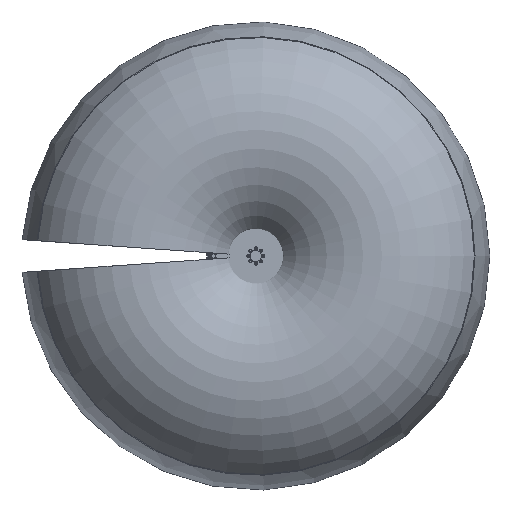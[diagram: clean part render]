
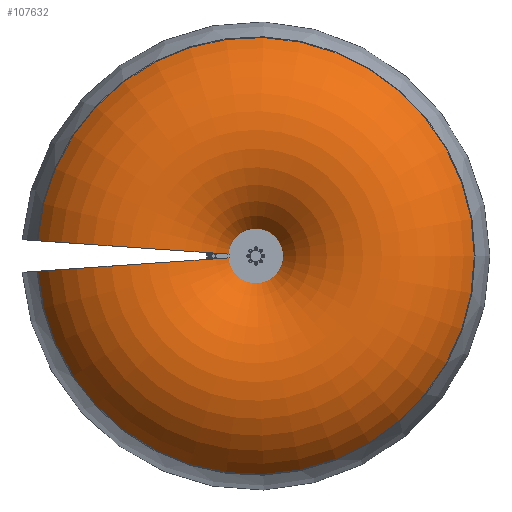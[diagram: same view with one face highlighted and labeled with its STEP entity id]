
A CAD part, front view. The second image highlights one B-rep face of the part: STEP entity #107632.
In plain terms, the highlighted toroidal (fillet/blend) face has major radius 519.892 mm and minor radius 493.438 mm.
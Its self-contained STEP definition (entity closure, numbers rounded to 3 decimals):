
#4963 = CARTESIAN_POINT ( 'NONE',  ( -78.124, 66.35, -5.463 ) ) ;
#13414 = VERTEX_POINT ( 'NONE', #46708 ) ;
#20963 = CARTESIAN_POINT ( 'NONE',  ( -947.065, 43.607, -66.225 ) ) ;
#22651 = CARTESIAN_POINT ( 'NONE',  ( 0., 66.35, 0. ) ) ;
#26106 = DIRECTION ( 'NONE',  ( 0.07, 0., -0.998 ) ) ;
#46708 = CARTESIAN_POINT ( 'NONE',  ( -78.124, 66.35, 5.463 ) ) ;
#62185 = EDGE_CURVE ( 'NONE', #157649, #158836, #127745, .T. ) ;
#64010 = EDGE_CURVE ( 'NONE', #161813, #157649, #201263, .T. ) ;
#66969 = CARTESIAN_POINT ( 'NONE',  ( -518.626, 286.555, 36.266 ) ) ;
#69250 = DIRECTION ( 'NONE',  ( 0., -1., 0. ) ) ;
#93327 = CARTESIAN_POINT ( 'NONE',  ( -947.065, 43.607, 66.225 ) ) ;
#95449 = ORIENTED_EDGE ( 'NONE', *, *, #223878, .F. ) ;
#100693 = ORIENTED_EDGE ( 'NONE', *, *, #64010, .T. ) ;
#107632 = ADVANCED_FACE ( 'NONE', ( #182950 ), #171156, .T. ) ;
#109438 = ORIENTED_EDGE ( 'NONE', *, *, #62185, .T. ) ;
#123861 = CIRCLE ( 'NONE', #140922, 78.314 ) ;
#127307 = DIRECTION ( 'NONE',  ( -0.998, 0., 0.07 ) ) ;
#127745 = CIRCLE ( 'NONE', #260886, 949.378 ) ;
#129583 = AXIS2_PLACEMENT_3D ( 'NONE', #66969, #148775, #127307 ) ;
#133571 = DIRECTION ( 'NONE',  ( 0., 0., -1. ) ) ;
#140922 = AXIS2_PLACEMENT_3D ( 'NONE', #22651, #251903, #133571 ) ;
#148775 = DIRECTION ( 'NONE',  ( -0.07, 0., -0.998 ) ) ;
#150866 = DIRECTION ( 'NONE',  ( -0.998, 0., -0.07 ) ) ;
#153158 = ORIENTED_EDGE ( 'NONE', *, *, #164107, .F. ) ;
#157649 = VERTEX_POINT ( 'NONE', #20963 ) ;
#158836 = VERTEX_POINT ( 'NONE', #93327 ) ;
#161813 = VERTEX_POINT ( 'NONE', #4963 ) ;
#164107 = EDGE_CURVE ( 'NONE', #13414, #158836, #189567, .T. ) ;
#167336 = EDGE_LOOP ( 'NONE', ( #100693, #109438, #153158, #95449 ) ) ;
#171156 = TOROIDAL_SURFACE ( 'NONE', #222536, 519.892, 493.438 ) ;
#173846 = CARTESIAN_POINT ( 'NONE',  ( 0., 43.607, 0. ) ) ;
#182950 = FACE_OUTER_BOUND ( 'NONE', #167336, .T. ) ;
#189567 = CIRCLE ( 'NONE', #129583, 493.438 ) ;
#196863 = AXIS2_PLACEMENT_3D ( 'NONE', #209979, #26106, #150866 ) ;
#201263 = CIRCLE ( 'NONE', #196863, 493.438 ) ;
#209979 = CARTESIAN_POINT ( 'NONE',  ( -518.626, 286.555, -36.266 ) ) ;
#214124 = DIRECTION ( 'NONE',  ( 0., 0., -1. ) ) ;
#221972 = DIRECTION ( 'NONE',  ( 0., -1., 0. ) ) ;
#222536 = AXIS2_PLACEMENT_3D ( 'NONE', #242178, #221972, #265022 ) ;
#223878 = EDGE_CURVE ( 'NONE', #161813, #13414, #123861, .T. ) ;
#242178 = CARTESIAN_POINT ( 'NONE',  ( 0., 286.555, 0. ) ) ;
#251903 = DIRECTION ( 'NONE',  ( 0., -1., 0. ) ) ;
#260886 = AXIS2_PLACEMENT_3D ( 'NONE', #173846, #69250, #214124 ) ;
#265022 = DIRECTION ( 'NONE',  ( 0., 0., -1. ) ) ;
